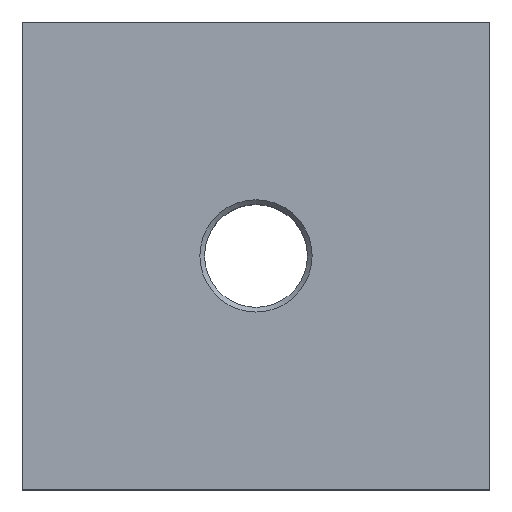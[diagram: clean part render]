
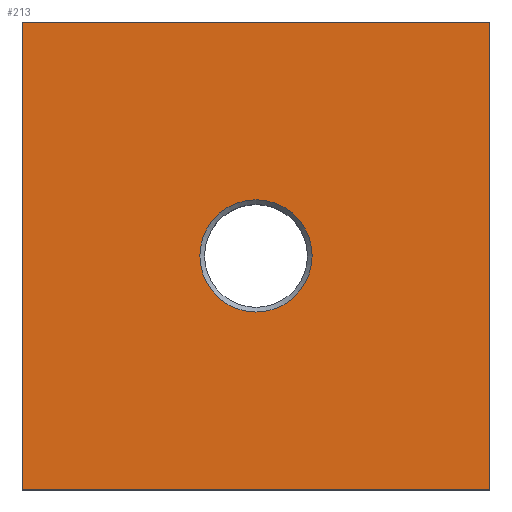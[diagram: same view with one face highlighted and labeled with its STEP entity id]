
A CAD part, top view. The second image highlights one B-rep face of the part: STEP entity #213.
In plain terms, the highlighted planar face has unit normal (0, 0, 1).
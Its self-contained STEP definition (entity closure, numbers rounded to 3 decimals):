
#24 = VERTEX_POINT('',#25);
#25 = CARTESIAN_POINT('',(-50.,-50.,30.));
#32 = PLANE('',#33);
#33 = AXIS2_PLACEMENT_3D('',#34,#35,#36);
#34 = CARTESIAN_POINT('',(-50.,-50.,0.));
#35 = DIRECTION('',(1.,0.,0.));
#36 = DIRECTION('',(0.,0.,1.));
#44 = PLANE('',#45);
#45 = AXIS2_PLACEMENT_3D('',#46,#47,#48);
#46 = CARTESIAN_POINT('',(-50.,-50.,0.));
#47 = DIRECTION('',(0.,1.,0.));
#48 = DIRECTION('',(0.,0.,1.));
#85 = VERTEX_POINT('',#86);
#86 = CARTESIAN_POINT('',(-50.,50.,30.));
#100 = PLANE('',#101);
#101 = AXIS2_PLACEMENT_3D('',#102,#103,#104);
#102 = CARTESIAN_POINT('',(-50.,50.,0.));
#103 = DIRECTION('',(0.,1.,0.));
#104 = DIRECTION('',(0.,0.,1.));
#112 = EDGE_CURVE('',#24,#85,#113,.T.);
#113 = SURFACE_CURVE('',#114,(#118,#125),.PCURVE_S1.);
#114 = LINE('',#115,#116);
#115 = CARTESIAN_POINT('',(-50.,-50.,30.));
#116 = VECTOR('',#117,1.);
#117 = DIRECTION('',(0.,1.,0.));
#118 = PCURVE('',#32,#119);
#119 = DEFINITIONAL_REPRESENTATION('',(#120),#124);
#120 = LINE('',#121,#122);
#121 = CARTESIAN_POINT('',(30.,0.));
#122 = VECTOR('',#123,1.);
#123 = DIRECTION('',(0.,-1.));
#124 = ( GEOMETRIC_REPRESENTATION_CONTEXT(2) 
PARAMETRIC_REPRESENTATION_CONTEXT() REPRESENTATION_CONTEXT('2D SPACE',''
  ) );
#125 = PCURVE('',#126,#131);
#126 = PLANE('',#127);
#127 = AXIS2_PLACEMENT_3D('',#128,#129,#130);
#128 = CARTESIAN_POINT('',(-50.,-50.,30.));
#129 = DIRECTION('',(0.,0.,1.));
#130 = DIRECTION('',(1.,0.,0.));
#131 = DEFINITIONAL_REPRESENTATION('',(#132),#136);
#132 = LINE('',#133,#134);
#133 = CARTESIAN_POINT('',(0.,0.));
#134 = VECTOR('',#135,1.);
#135 = DIRECTION('',(0.,1.));
#136 = ( GEOMETRIC_REPRESENTATION_CONTEXT(2) 
PARAMETRIC_REPRESENTATION_CONTEXT() REPRESENTATION_CONTEXT('2D SPACE',''
  ) );
#165 = EDGE_CURVE('',#24,#166,#168,.T.);
#166 = VERTEX_POINT('',#167);
#167 = CARTESIAN_POINT('',(50.,-50.,30.));
#168 = SURFACE_CURVE('',#169,(#173,#180),.PCURVE_S1.);
#169 = LINE('',#170,#171);
#170 = CARTESIAN_POINT('',(-50.,-50.,30.));
#171 = VECTOR('',#172,1.);
#172 = DIRECTION('',(1.,0.,0.));
#173 = PCURVE('',#44,#174);
#174 = DEFINITIONAL_REPRESENTATION('',(#175),#179);
#175 = LINE('',#176,#177);
#176 = CARTESIAN_POINT('',(30.,0.));
#177 = VECTOR('',#178,1.);
#178 = DIRECTION('',(0.,1.));
#179 = ( GEOMETRIC_REPRESENTATION_CONTEXT(2) 
PARAMETRIC_REPRESENTATION_CONTEXT() REPRESENTATION_CONTEXT('2D SPACE',''
  ) );
#180 = PCURVE('',#126,#181);
#181 = DEFINITIONAL_REPRESENTATION('',(#182),#186);
#182 = LINE('',#183,#184);
#183 = CARTESIAN_POINT('',(0.,0.));
#184 = VECTOR('',#185,1.);
#185 = DIRECTION('',(1.,0.));
#186 = ( GEOMETRIC_REPRESENTATION_CONTEXT(2) 
PARAMETRIC_REPRESENTATION_CONTEXT() REPRESENTATION_CONTEXT('2D SPACE',''
  ) );
#202 = PLANE('',#203);
#203 = AXIS2_PLACEMENT_3D('',#204,#205,#206);
#204 = CARTESIAN_POINT('',(50.,-50.,0.));
#205 = DIRECTION('',(1.,0.,0.));
#206 = DIRECTION('',(0.,0.,1.));
#213 = ADVANCED_FACE('',(#214,#262),#126,.T.);
#214 = FACE_BOUND('',#215,.T.);
#215 = EDGE_LOOP('',(#216,#217,#218,#241));
#216 = ORIENTED_EDGE('',*,*,#112,.F.);
#217 = ORIENTED_EDGE('',*,*,#165,.T.);
#218 = ORIENTED_EDGE('',*,*,#219,.T.);
#219 = EDGE_CURVE('',#166,#220,#222,.T.);
#220 = VERTEX_POINT('',#221);
#221 = CARTESIAN_POINT('',(50.,50.,30.));
#222 = SURFACE_CURVE('',#223,(#227,#234),.PCURVE_S1.);
#223 = LINE('',#224,#225);
#224 = CARTESIAN_POINT('',(50.,-50.,30.));
#225 = VECTOR('',#226,1.);
#226 = DIRECTION('',(0.,1.,0.));
#227 = PCURVE('',#126,#228);
#228 = DEFINITIONAL_REPRESENTATION('',(#229),#233);
#229 = LINE('',#230,#231);
#230 = CARTESIAN_POINT('',(100.,0.));
#231 = VECTOR('',#232,1.);
#232 = DIRECTION('',(0.,1.));
#233 = ( GEOMETRIC_REPRESENTATION_CONTEXT(2) 
PARAMETRIC_REPRESENTATION_CONTEXT() REPRESENTATION_CONTEXT('2D SPACE',''
  ) );
#234 = PCURVE('',#202,#235);
#235 = DEFINITIONAL_REPRESENTATION('',(#236),#240);
#236 = LINE('',#237,#238);
#237 = CARTESIAN_POINT('',(30.,0.));
#238 = VECTOR('',#239,1.);
#239 = DIRECTION('',(0.,-1.));
#240 = ( GEOMETRIC_REPRESENTATION_CONTEXT(2) 
PARAMETRIC_REPRESENTATION_CONTEXT() REPRESENTATION_CONTEXT('2D SPACE',''
  ) );
#241 = ORIENTED_EDGE('',*,*,#242,.F.);
#242 = EDGE_CURVE('',#85,#220,#243,.T.);
#243 = SURFACE_CURVE('',#244,(#248,#255),.PCURVE_S1.);
#244 = LINE('',#245,#246);
#245 = CARTESIAN_POINT('',(-50.,50.,30.));
#246 = VECTOR('',#247,1.);
#247 = DIRECTION('',(1.,0.,0.));
#248 = PCURVE('',#126,#249);
#249 = DEFINITIONAL_REPRESENTATION('',(#250),#254);
#250 = LINE('',#251,#252);
#251 = CARTESIAN_POINT('',(0.,100.));
#252 = VECTOR('',#253,1.);
#253 = DIRECTION('',(1.,0.));
#254 = ( GEOMETRIC_REPRESENTATION_CONTEXT(2) 
PARAMETRIC_REPRESENTATION_CONTEXT() REPRESENTATION_CONTEXT('2D SPACE',''
  ) );
#255 = PCURVE('',#100,#256);
#256 = DEFINITIONAL_REPRESENTATION('',(#257),#261);
#257 = LINE('',#258,#259);
#258 = CARTESIAN_POINT('',(30.,0.));
#259 = VECTOR('',#260,1.);
#260 = DIRECTION('',(0.,1.));
#261 = ( GEOMETRIC_REPRESENTATION_CONTEXT(2) 
PARAMETRIC_REPRESENTATION_CONTEXT() REPRESENTATION_CONTEXT('2D SPACE',''
  ) );
#262 = FACE_BOUND('',#263,.T.);
#263 = EDGE_LOOP('',(#264));
#264 = ORIENTED_EDGE('',*,*,#265,.F.);
#265 = EDGE_CURVE('',#266,#266,#268,.T.);
#266 = VERTEX_POINT('',#267);
#267 = CARTESIAN_POINT('',(12.,0.,30.));
#268 = SURFACE_CURVE('',#269,(#274,#281),.PCURVE_S1.);
#269 = CIRCLE('',#270,12.);
#270 = AXIS2_PLACEMENT_3D('',#271,#272,#273);
#271 = CARTESIAN_POINT('',(0.,0.,30.));
#272 = DIRECTION('',(0.,0.,1.));
#273 = DIRECTION('',(1.,0.,-0.));
#274 = PCURVE('',#126,#275);
#275 = DEFINITIONAL_REPRESENTATION('',(#276),#280);
#276 = CIRCLE('',#277,12.);
#277 = AXIS2_PLACEMENT_2D('',#278,#279);
#278 = CARTESIAN_POINT('',(50.,50.));
#279 = DIRECTION('',(1.,0.));
#280 = ( GEOMETRIC_REPRESENTATION_CONTEXT(2) 
PARAMETRIC_REPRESENTATION_CONTEXT() REPRESENTATION_CONTEXT('2D SPACE',''
  ) );
#281 = PCURVE('',#282,#287);
#282 = CONICAL_SURFACE('',#283,11.,0.785);
#283 = AXIS2_PLACEMENT_3D('',#284,#285,#286);
#284 = CARTESIAN_POINT('',(0.,0.,29.));
#285 = DIRECTION('',(0.,0.,1.));
#286 = DIRECTION('',(1.,0.,-0.));
#287 = DEFINITIONAL_REPRESENTATION('',(#288),#292);
#288 = LINE('',#289,#290);
#289 = CARTESIAN_POINT('',(0.,1.));
#290 = VECTOR('',#291,1.);
#291 = DIRECTION('',(1.,0.));
#292 = ( GEOMETRIC_REPRESENTATION_CONTEXT(2) 
PARAMETRIC_REPRESENTATION_CONTEXT() REPRESENTATION_CONTEXT('2D SPACE',''
  ) );
